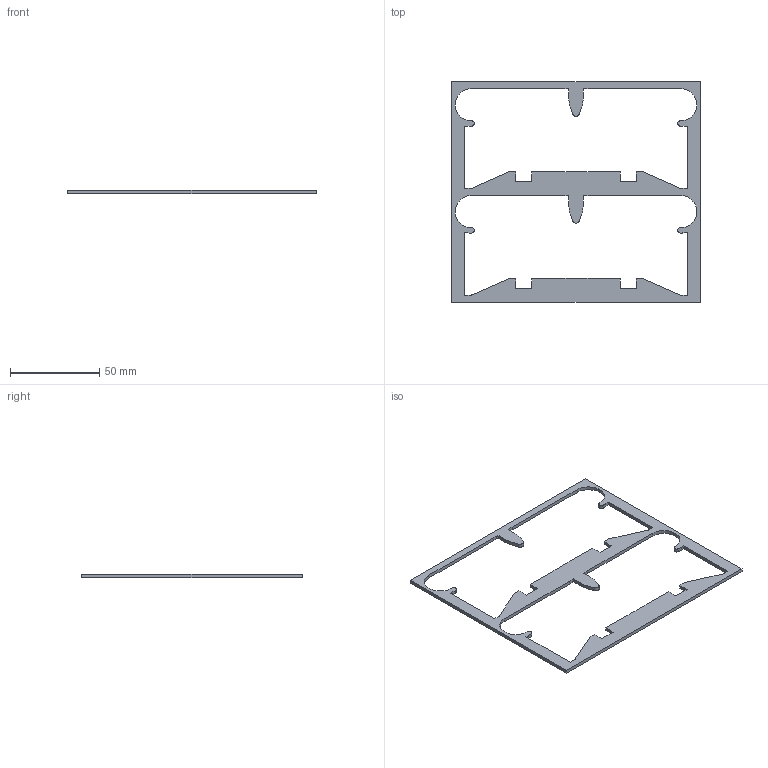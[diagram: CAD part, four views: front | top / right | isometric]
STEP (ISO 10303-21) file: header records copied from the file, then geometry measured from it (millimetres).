
FILE_DESCRIPTION(('CATIA V5 STEP Exchange'),'2;1');
FILE_NAME('G:\Pince Molly Internet\Industrialisation des Produits\TP1\Maquette numérique\CATIA\tole 4 a.stp','2009-12-22T09:50:38+00:00',('none'),('none'),'CATIA Version 5 Release 16 (IN-10)','CATIA V5 STEP AP203','none');
FILE_SCHEMA(('CONFIG_CONTROL_DESIGN'));
Length unit declared in the file: millimetre
Products named in the file (1): tole 2 a
Bounding box: 139.71 x 124 x 2 mm (x, y, z)
Volume: 9873.7 mm3; surface area: 12693 mm2
Topology: 1 solids, 1 shells, 106 faces, 312 edges, 208 vertices
Faces by surface type: plane 84, cylinder 14, extrusion 8
Entity records: 3898 total; most frequent: CARTESIAN_POINT 1107, ORIENTED_EDGE 624, DIRECTION 472, EDGE_CURVE 312, VECTOR 276, LINE 268, VERTEX_POINT 208, EDGE_LOOP 110
